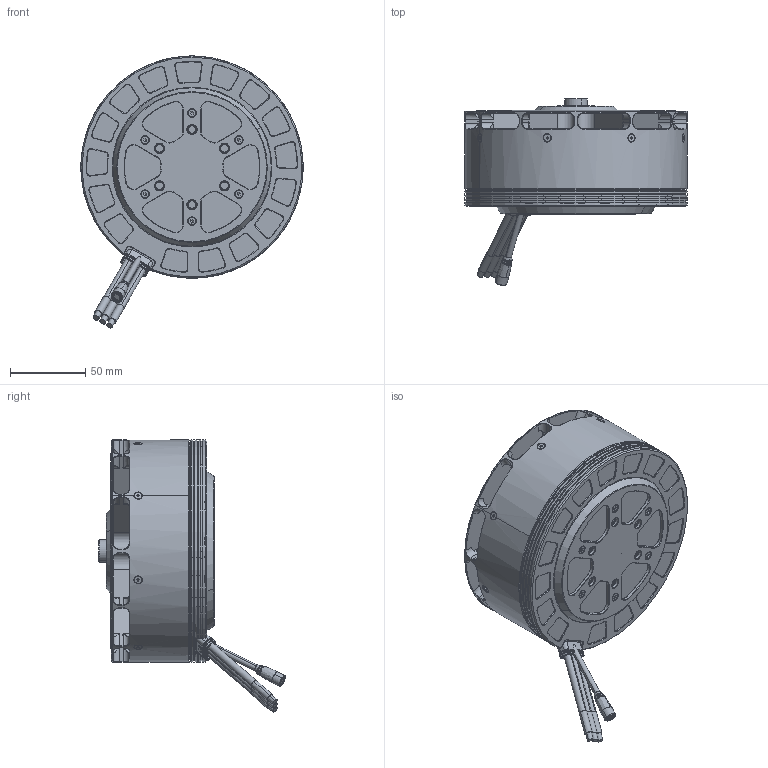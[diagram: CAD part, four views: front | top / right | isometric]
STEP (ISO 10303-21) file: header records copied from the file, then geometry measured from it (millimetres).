
FILE_DESCRIPTION (( 'STEP AP214' ), '1' );
FILE_NAME ('HW-V13828-55KV-3D-勤俋-20260430.STEP', '2026-04-30T02:09:32', ( '' ), ( '' ), 'SwSTEP 2.0', 'SolidWorks 2021', '' );
FILE_SCHEMA (( 'AUTOMOTIVE_DESIGN' ));
Length unit declared in the file: millimetre
Products named in the file (1): HW-V13828-55KV-3D-勤俋-20260430
Bounding box: 147.9 x 124.28 x 181.09 mm (x, y, z)
Volume: 979949.3 mm3; surface area: 138662.1 mm2
Topology: 38 solids, 74 shells, 4015 faces, 10538 edges, 6616 vertices
Faces by surface type: plane 2026, cylinder 963, bspline 540, cone 450, torus 30, sphere 6
Entity records: 190093 total; most frequent: CARTESIAN_POINT 52009, ORIENTED_EDGE 20948, DIRECTION 17762, EDGE_CURVE 10474, LINE 6632, VECTOR 6632, VERTEX_POINT 6616, AXIS2_PLACEMENT_3D 5565
